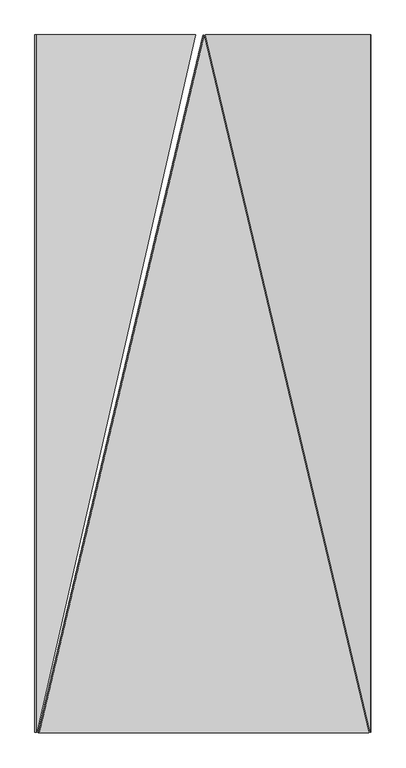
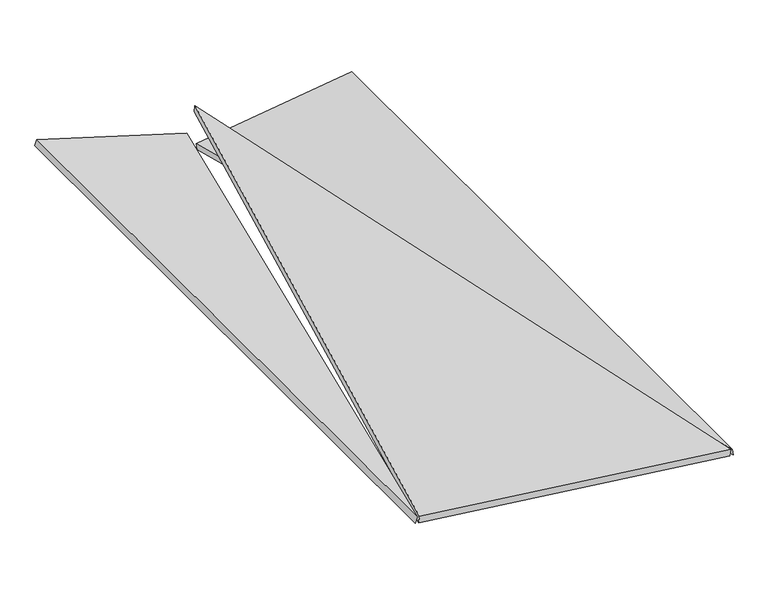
"""IFC4 building model written with IfcOpenShell, lengths in millimetres: proxy geometry, panel sufitowy 6 : panel sufitowy 6."""

from ifc_helpers import new_model, si_unit, frame, origin, place, context, project, spatial, polyline, outline, extrude, source, transform, mapped, element, save


def generic_models_99ad1ba7(model_context):
    return source(origin(), model_context, "Body", "SweptSolid", [
        extrude(outline(polyline([(-900.9098917, 0.0), (1006.1909889, 962.7191946), (1235.4098448, 0.0), (-900.9098917, 0.0)])), frame((545.0613089, 1457.4151922, 1117.5874869), z_axis=(0.12186934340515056, 0.0, 0.9925461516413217), x_axis=(-0.22989406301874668, -0.9728062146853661, 0.028227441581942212)), (0.0, 0.0, 1.0), 20.0),
        extrude(outline(polyline([(-127.4999999, 0.0), (-127.4999999, -2079.0), (-622.5, 0.0), (-127.4999999, 0.0)])), frame((1379.3926737, 2335.0, 1048.3917248), z_axis=(-0.1391731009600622, 0.0, 0.9902680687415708), x_axis=(0.9902680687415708, 0.0, 0.1391731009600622)), (0.0, 0.0, 1.0), 20.0),
        extrude(outline(polyline([(-127.5, 0.0), (-622.5, 0.0), (-127.5, 2079.0), (-127.5, 0.0)])), frame((128.7330254, 2335.0, 1191.0125836), z_axis=(0.29237170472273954, 0.0, 0.9563047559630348), x_axis=(-0.9563047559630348, 0.0, 0.29237170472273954)), (0.0, 0.0, 1.0), 20.0),
    ])


if __name__ == "__main__":
    model = new_model("IFC4")
    model_context = context("Model", 3, world=origin())
    ifc_project = project(units=[si_unit("LENGTHUNIT", "METRE", prefix="MILLI")], contexts=[model_context])
    site = spatial("IfcSite", under=ifc_project)
    building = spatial("IfcBuilding", under=site)
    placement = place(None, origin())
    generic_models_shape = generic_models_99ad1ba7(model_context)
    element("IfcBuildingElementProxy", 1, Name="panel sufitowy 6 : panel sufitowy 6", ObjectType="panel sufitowy 6 : panel sufitowy 6", at=placement, inside=building, context=model_context, shape_type="MappedRepresentation", body=[
        mapped(generic_models_shape, transform((0.0, 0.0, 0.0), x_axis=(1.0, 0.0, 0.0), y_axis=(0.0, 1.0, 0.0), z_axis=(0.0, 0.0, 1.0))),
    ])
    save(model, "model.ifc")
